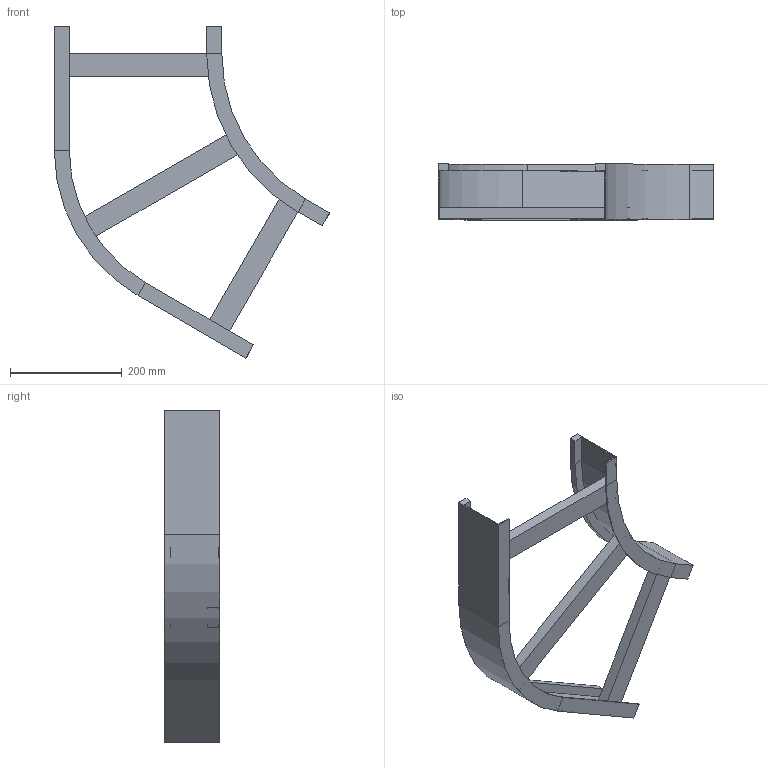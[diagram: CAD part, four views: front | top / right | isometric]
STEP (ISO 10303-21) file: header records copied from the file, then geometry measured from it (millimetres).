
FILE_DESCRIPTION (( 'STEP AP214' ), '1' );
FILE_NAME ('B2_13B3D300.step', '2025-02-21T15:18:15', ( '' ), ( '' ), 'SwSTEP 2.0', 'SolidWorks 2023', '' );
FILE_SCHEMA (( 'AUTOMOTIVE_DESIGN' ));
Length unit declared in the file: millimetre
Products named in the file (5): TRAVERSINO_300; B2_LONGH.ESTERNO 60°_H100_R300+300; B2_LONGH.INTERNO 60°_H100_R300; TRAVERSINO_L342; B2_13B3D300
Assembly tree (5 placements, depth 2):
  B2_13B3D300
    B2_LONGH.INTERNO 60°_H100_R300
    B2_LONGH.ESTERNO 60°_H100_R300+300
    TRAVERSINO_300  x2
    TRAVERSINO_L342
Bounding box: 493.3 x 100 x 594.62 mm (x, y, z)
Volume: 1275770.1 mm3; surface area: 455614.4 mm2
Topology: 5 solids, 5 shells, 70 faces, 148 edges, 88 vertices
Faces by surface type: plane 62, cylinder 8
Entity records: 1822 total; most frequent: DIRECTION 296, CARTESIAN_POINT 288, ORIENTED_EDGE 272, EDGE_CURVE 136, VECTOR 120, LINE 120, AXIS2_PLACEMENT_3D 88, VERTEX_POINT 80
